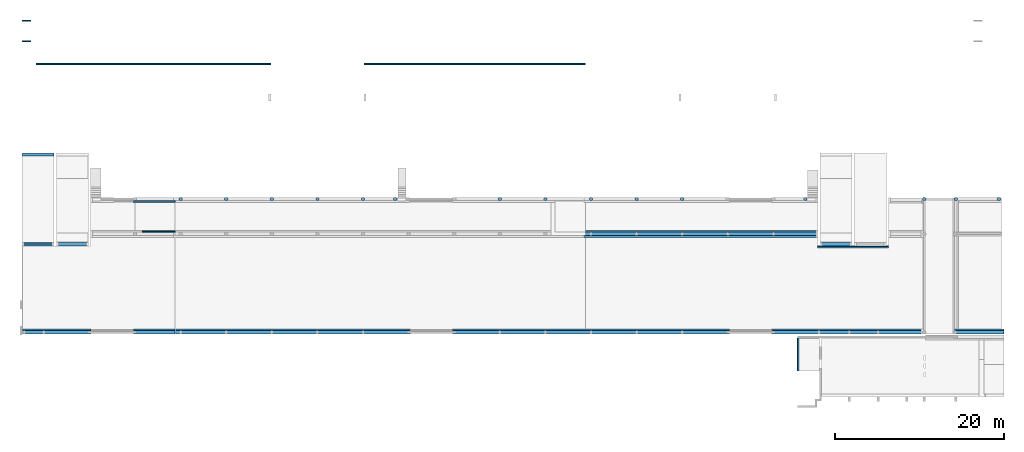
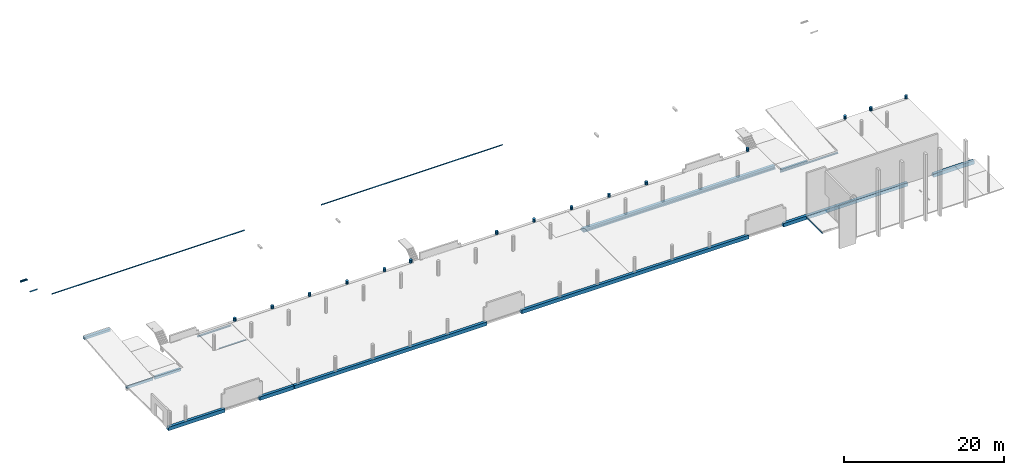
# One storey, part 3 of 9: 19 beams, 15 columns.
"""IFC2X3 building model written with IfcOpenShell, lengths in millimetres."""

from ifc_helpers import new_model, entity, si_unit, converted_unit, derived_unit, direction, frame, frame_2d, origin, place, context, subcontext, project, spatial, polyline, circle_curve, parameter, trimmed, segment, composite_curve, rectangle, circle, outline, extrude, source, transform, mapped, material, type_object, type_shapes, element, save


model = new_model("IFC2X3")

# Units and contexts
model_context = context("Model", 3, precision=0.01, world=origin(), true_north=direction((6.12303176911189e-17, 1.0)))
body_context = subcontext(model_context, "Body", "Model", "MODEL_VIEW")
ifc_project = project(units=[si_unit("LENGTHUNIT", "METRE", prefix="MILLI"), si_unit("AREAUNIT", "SQUARE_METRE"), si_unit("VOLUMEUNIT", "CUBIC_METRE"), converted_unit("PLANEANGLEUNIT", "DEGREE", entity("IfcRatioMeasure", 0.0174532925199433), si_unit("PLANEANGLEUNIT", "RADIAN"), dimensions=[0, 0, 0, 0, 0, 0, 0]), si_unit("MASSUNIT", "GRAM", prefix="KILO"), derived_unit("MASSDENSITYUNIT", [(si_unit("MASSUNIT", "GRAM", prefix="KILO"), 1), (si_unit("LENGTHUNIT", "METRE"), -3)]), si_unit("TIMEUNIT", "SECOND"), si_unit("FREQUENCYUNIT", "HERTZ"), si_unit("THERMODYNAMICTEMPERATUREUNIT", "DEGREE_CELSIUS"), derived_unit("THERMALTRANSMITTANCEUNIT", [(si_unit("MASSUNIT", "GRAM", prefix="KILO"), 1), (si_unit("THERMODYNAMICTEMPERATUREUNIT", "KELVIN"), -1), (si_unit("TIMEUNIT", "SECOND"), -3)]), derived_unit("VOLUMETRICFLOWRATEUNIT", [(si_unit("LENGTHUNIT", "METRE"), 3), (si_unit("TIMEUNIT", "SECOND"), -1)]), si_unit("ELECTRICCURRENTUNIT", "AMPERE"), si_unit("ELECTRICVOLTAGEUNIT", "VOLT"), si_unit("POWERUNIT", "WATT"), si_unit("FORCEUNIT", "NEWTON", prefix="KILO"), si_unit("ILLUMINANCEUNIT", "LUX"), si_unit("LUMINOUSFLUXUNIT", "LUMEN"), si_unit("LUMINOUSINTENSITYUNIT", "CANDELA"), derived_unit("USERDEFINED", [(si_unit("MASSUNIT", "GRAM", prefix="KILO"), -1), (si_unit("LENGTHUNIT", "METRE"), -2), (si_unit("TIMEUNIT", "SECOND"), 3), (si_unit("LUMINOUSFLUXUNIT", "LUMEN"), 1)]), derived_unit("LINEARVELOCITYUNIT", [(si_unit("LENGTHUNIT", "METRE"), 1), (si_unit("TIMEUNIT", "SECOND"), -1)]), si_unit("PRESSUREUNIT", "PASCAL"), derived_unit("USERDEFINED", [(si_unit("LENGTHUNIT", "METRE"), -2), (si_unit("MASSUNIT", "GRAM", prefix="KILO"), 1), (si_unit("TIMEUNIT", "SECOND"), -2)])], contexts=[model_context])

# Site, building, storey
site_placement = place(None, origin())
site = spatial("IfcSite", under=ifc_project, at=site_placement, Name="Default", CompositionType="ELEMENT")
building_placement = place(site_placement, origin())
building = spatial("IfcBuilding", under=site, at=building_placement, Name="niet gebruiken", CompositionType="ELEMENT")
storey_placement = place(building_placement, frame((0.0, 0.0, 5570.0)))
storey = spatial("IfcBuildingStorey", under=building, at=storey_placement, Name="01b tweede tussenverdieping", CompositionType="ELEMENT", Elevation=5570.0)

# Columns
ifc_material_1 = material(Name="NLRS_f2_beton prefab")
column_type_1 = type_object("IfcColumnType", Name="ø400", PredefinedType="COLUMN", material=ifc_material_1)
shared_shape_1 = source(origin(), body_context, "Body", "SweptSolid", [
    extrude(circle(Radius=200.0, at=frame_2d((1.69197988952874e-14, -3.02923644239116e-13), x_axis=(1.0, 0.0))), frame((0.0, 0.0, 5600.0)), (0.0, 0.0, 1.0), 459.999999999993),
])
type_shapes(column_type_1, [shared_shape_1])
for number, where in (
    (1, (27000.0, 24976.0, -5570.0)),
    (2, (32400.0, 24976.0, -5570.0)),
    (3, (37800.0, 24976.0, -5570.0)),
    (4, (43200.0, 24976.0, -5570.0)),
    (5, (48600.0, 24976.0, -5570.0)),
    (6, (52390.0, 24976.0, -5570.0)),
    (7, (64800.0, 24976.0, -5570.0)),
    (8, (70200.0, 24976.0, -5570.0)),
    (9, (75600.0, 24976.0, -5570.0)),
    (10, (81000.0, 24976.0, -5570.0)),
    (11, (86400.0, 24976.0, -5570.0)),
    (12, (100990.0, 24976.0, -5570.0)),
    (13, (115075.000813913, 24976.0, -5570.0)),
):
    element("IfcColumn", number, at=place(storey_placement, frame(where)), inside=storey, type_object=column_type_1, material=ifc_material_1, Name="NLRS_28. kolom rond_gen:ø400", ObjectType="ø400", context=body_context, shape_type="MappedRepresentation", body=[
        mapped(shared_shape_1, transform((0.0, 0.0, 0.0), scale=1.0)),
    ])
column_type_2 = type_object("IfcColumnType", Name="ø400", PredefinedType="COLUMN", material=ifc_material_1)
shared_shape_2 = source(origin(), body_context, "Body", "SweptSolid", [
    extrude(circle(Radius=200.0, at=frame_2d((1.69197988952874e-14, -3.02923644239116e-13), x_axis=(1.0, 0.0))), frame((0.0, 0.0, 5520.0)), (0.0, 0.0, 1.0), 539.999999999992),
])
type_shapes(column_type_2, [shared_shape_2])
column_1_placement = place(storey_placement, frame((118800.0, 24976.0, -5570.0)))
element("IfcColumn", 14, at=column_1_placement, inside=storey, type_object=column_type_2, material=ifc_material_1, Name="NLRS_28. kolom rond_gen:ø400", ObjectType="ø400", context=body_context, shape_type="MappedRepresentation", body=[
    mapped(shared_shape_2, transform((0.0, 0.0, 0.0), scale=1.0)),
])
column_type_3 = type_object("IfcColumnType", Name="ø400", PredefinedType="COLUMN", material=ifc_material_1)
shared_shape_3 = source(origin(), body_context, "Body", "SweptSolid", [
    extrude(circle(Radius=200.000000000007, at=frame_2d((-3.75232390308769e-25, -8.66293703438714e-12), x_axis=(1.0, 0.0))), frame((123900.0, 24976.0, 5600.0)), (0.0, 0.0, 1.0), 459.999999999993),
])
type_shapes(column_type_3, [shared_shape_3])
column_2_placement = place(storey_placement, frame((0.0, 0.0, -5570.0)))
element("IfcColumn", 15, at=column_2_placement, inside=storey, type_object=column_type_3, material=ifc_material_1, Name="NLRS_28. kolom rond_gen:ø400", ObjectType="ø400", context=body_context, shape_type="MappedRepresentation", body=[
    mapped(shared_shape_3, transform((0.0, 0.0, 0.0), scale=1.0)),
])

# Beams
ifc_material_2 = material(Name="NLRS_h2_staal")
beam_type_1 = type_object("IfcBeamType", Name="NLRS_28.11_SF_WPB_stalen ligger hoekprofiel gelijkzijdig_gen:ligger gelijzijdig hoekprofiel LEQU_150x150x15", PredefinedType="BEAM")
beam_1_placement = place(storey_placement, frame((8245.0, 46133.5000000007, -330.0)))
element("IfcBeam", 16, at=beam_1_placement, inside=storey, type_object=beam_type_1, material=ifc_material_2, Name="NLRS_28.11_SF_WPB_stalen ligger hoekprofiel gelijkzijdig_gen:ligger gelijzijdig hoekprofiel LEQU_150x150x15", ObjectType="NLRS_28.11_SF_WPB_stalen ligger hoekprofiel gelijkzijdig_gen:ligger gelijzijdig hoekprofiel LEQU_150x150x15", context=body_context, shape_type="SweptSolid", body=[
    extrude(outline(composite_curve([segment(polyline([(49.6666666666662, -93.3333333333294), (56.6666666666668, -93.3333333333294)]), True, "CONTINUOUS"), segment(polyline([(56.6666666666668, -93.3333333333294), (56.6666666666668, 56.6666666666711)]), True, "CONTINUOUS"), segment(polyline([(56.6666666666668, 56.6666666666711), (-93.3333333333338, 56.6666666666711)]), True, "CONTINUOUS"), segment(polyline([(-93.3333333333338, 56.6666666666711), (-93.3333333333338, 49.6666666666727)]), True, "CONTINUOUS"), segment(trimmed(circle_curve(frame_2d((-85.3333333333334, 49.6666666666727), x_axis=(-1.0, 0.0)), 7.99999999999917), [parameter(0.0)], [parameter(90.0000000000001)], True, "PARAMETER"), True, "CONTINUOUS"), segment(polyline([(-85.3333333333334, 41.6666666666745), (25.6666666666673, 41.6666666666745)]), True, "CONTINUOUS"), segment(trimmed(circle_curve(frame_2d((25.6666666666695, 25.6666666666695), x_axis=(0.0, 1.0)), 15.9999999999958), [parameter(269.999999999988)], [parameter(0.0)], True, "PARAMETER"), False, "CONTINUOUS"), segment(polyline([(41.6666666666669, 25.6666666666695), (41.6666666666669, -85.3333333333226)]), True, "CONTINUOUS"), segment(trimmed(circle_curve(frame_2d((49.6666666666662, -85.3333333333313), x_axis=(-1.0, 0.0)), 7.99999999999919), [parameter(0.0)], [parameter(90.0000000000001)], True, "PARAMETER"), True, "CONTINUOUS")], self_intersect=False)), frame((0.0, -14.1666666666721, 56.6666666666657), z_axis=(1.0, 0.0, 0.0), x_axis=(0.0, 0.0, -1.0)), (0.0, 0.0, 1.0), 999.999999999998),
])
beam_2_placement = place(storey_placement, frame((8245.0, 43618.5000000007, -330.0)))
element("IfcBeam", 17, at=beam_2_placement, inside=storey, type_object=beam_type_1, material=ifc_material_2, Name="NLRS_28.11_SF_WPB_stalen ligger hoekprofiel gelijkzijdig_gen:ligger gelijzijdig hoekprofiel LEQU_150x150x15", ObjectType="NLRS_28.11_SF_WPB_stalen ligger hoekprofiel gelijkzijdig_gen:ligger gelijzijdig hoekprofiel LEQU_150x150x15", context=body_context, shape_type="SweptSolid", body=[
    extrude(outline(composite_curve([segment(polyline([(-93.3333333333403, -56.6666666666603), (56.6666666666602, -56.6666666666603)]), True, "CONTINUOUS"), segment(polyline([(56.6666666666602, -56.6666666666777), (56.6666666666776, 93.3333333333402)]), True, "CONTINUOUS"), segment(polyline([(56.6666666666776, 93.3333333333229), (49.666666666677, 93.333333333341)]), True, "CONTINUOUS"), segment(trimmed(circle_curve(frame_2d((49.6666666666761, 85.3333333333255), x_axis=(0.0, 1.0)), 7.99999999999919), [parameter(0.0)], [parameter(90.0000000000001)], True, "PARAMETER"), True, "CONTINUOUS"), segment(polyline([(41.6666666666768, 85.3333333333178), (41.666666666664, -25.6666666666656)]), True, "CONTINUOUS"), segment(trimmed(circle_curve(frame_2d((25.6666666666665, -25.6666666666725), x_axis=(1.0, 0.0)), 15.9999999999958), [parameter(269.999999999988)], [parameter(0.0)], True, "PARAMETER"), False, "CONTINUOUS"), segment(polyline([(25.6666666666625, -41.6666666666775), (-85.3333333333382, -41.6666666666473)]), True, "CONTINUOUS"), segment(trimmed(circle_curve(frame_2d((-85.3333333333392, -49.6666666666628), x_axis=(0.0, 1.0)), 7.99999999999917), [parameter(0.0)], [parameter(90.0000000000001)], True, "PARAMETER"), True, "CONTINUOUS"), segment(polyline([(-93.3333333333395, -49.6666666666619), (-93.3333333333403, -56.6666666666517)]), True, "CONTINUOUS")], self_intersect=False)), frame((0.0, 14.1666666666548, 56.6666666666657), z_axis=(1.0, 0.0, 0.0), x_axis=(0.0, 0.0, -1.0)), (0.0, 0.0, 1.0), 999.999999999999),
])
beam_type_2 = type_object("IfcBeamType", Name="NLRS_28.11_SF_WPB_prefabbeton balk enkele sponning_gen:600x540/200x200", PredefinedType="BEAM")
beam_3_placement = place(storey_placement, frame((8245.00040695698, 9296.0, 10.0)))
element("IfcBeam", 18, at=beam_3_placement, inside=storey, type_object=beam_type_2, material=ifc_material_1, Name="NLRS_28.11_SF_WPB_prefabbeton balk enkele sponning_gen:600x540/200x200", ObjectType="NLRS_28.11_SF_WPB_prefabbeton balk enkele sponning_gen:600x540/200x200", context=body_context, shape_type="SweptSolid", body=[
    extrude(outline(polyline([(-293.33333333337, -333.333333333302), (246.666666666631, -333.333333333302), (246.666666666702, 266.666666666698), (46.6666666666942, 266.666666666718), (46.6666666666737, 66.6666666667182), (-293.333333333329, 66.666666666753), (-293.33333333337, -333.333333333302)])), frame((0.0, 33.3333333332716, -293.333333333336), z_axis=(1.0, 0.0, 0.0), x_axis=(0.0, 0.0, -1.0)), (0.0, 0.0, 1.0), 8154.99959304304),
])
beam_4_placement = place(storey_placement, frame((97000.0, 9296.0, 10.0)))
element("IfcBeam", 19, at=beam_4_placement, inside=storey, type_object=beam_type_2, material=ifc_material_1, Name="NLRS_28.11_SF_WPB_prefabbeton balk enkele sponning_gen:600x540/200x200", ObjectType="NLRS_28.11_SF_WPB_prefabbeton balk enkele sponning_gen:600x540/200x200", context=body_context, shape_type="SweptSolid", body=[
    extrude(outline(polyline([(-293.333333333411, -333.333333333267), (246.666666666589, -333.333333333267), (246.666666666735, 266.666666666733), (46.6666666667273, 266.666666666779), (46.666666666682, 66.6666666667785), (-293.333333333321, 66.6666666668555), (-293.333333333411, -333.333333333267)])), frame((0.0, 33.3333333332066, -293.333333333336), z_axis=(1.0, 0.0, 0.0), x_axis=(0.0, 0.0, -1.0)), (0.0, 0.0, 1.0), 17930.0004069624),
])
beam_type_3 = type_object("IfcBeamType", Name="NLRS_28.11_SF_WPB_prefabbeton balk dubbele sponning_gen:800x460/200x260/200x260", PredefinedType="BEAM")
beam_5_placement = place(storey_placement, frame((74750.0, 20846.0, -70.0)))
element("IfcBeam", 20, at=beam_5_placement, inside=storey, type_object=beam_type_3, material=ifc_material_1, Name="NLRS_28.11_SF_WPB_prefabbeton balk dubbele sponning_gen:800x460/200x260/200x260", ObjectType="NLRS_28.11_SF_WPB_prefabbeton balk dubbele sponning_gen:800x460/200x260/200x260", context=body_context, shape_type="SweptSolid", body=[
    extrude(outline(polyline([(15.0, -400.0), (215.0, -400.0), (215.0, 400.0), (15.0, 400.0), (15.0, 200.0), (-245.0, 200.0), (-245.0, -200.0), (15.0, -200.0), (15.0, -400.0)])), frame((0.0, 0.0, -245.0), z_axis=(1.0, 0.0, 0.0), x_axis=(0.0, 0.0, -1.0)), (0.0, 0.0, 1.0), 27705.0000000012),
])
beam_type_4 = type_object("IfcBeamType", Name="NLRS_28.11_SF_WPB_stalen ligger hoekprofiel gelijkzijdig_gen:ligger gelijzijdig hoekprofiel LEQU_200x200x15", PredefinedType="BEAM")
beam_6_placement = place(storey_placement, frame((102475.0, 19226.0, -252.500000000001)))
element("IfcBeam", 21, at=beam_6_placement, inside=storey, type_object=beam_type_4, material=ifc_material_2, Name="NLRS_28.11_SF_WPB_stalen ligger hoekprofiel gelijkzijdig_gen:ligger gelijzijdig hoekprofiel LEQU_200x200x15", ObjectType="NLRS_28.11_SF_WPB_stalen ligger hoekprofiel gelijkzijdig_gen:ligger gelijzijdig hoekprofiel LEQU_200x200x15", context=body_context, shape_type="SweptSolid", body=[
    extrude(outline(composite_curve([segment(polyline([(66.3333333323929, -126.666666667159), (73.3333333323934, -126.666666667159)]), True, "CONTINUOUS"), segment(polyline([(73.3333333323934, -126.666666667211), (73.3333333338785, 73.3333333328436)]), True, "CONTINUOUS"), segment(polyline([(73.3333333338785, 73.3333333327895), (-126.666666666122, 73.3333333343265)]), True, "CONTINUOUS"), segment(polyline([(-126.666666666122, 73.3333333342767), (-126.666666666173, 66.3333333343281)]), True, "CONTINUOUS"), segment(trimmed(circle_curve(frame_2d((-118.666666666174, 66.3333333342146), x_axis=(-1.0, 0.0)), 8.00000000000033), [parameter(0.0)], [parameter(90.0000000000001)], True, "PARAMETER"), True, "CONTINUOUS"), segment(polyline([(-118.666666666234, 58.3333333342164), (42.3333333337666, 58.3333333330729)]), True, "CONTINUOUS"), segment(trimmed(circle_curve(frame_2d((42.3333333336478, 42.3333333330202), x_axis=(0.0, 1.0)), 15.9999999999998), [parameter(270.0)], [parameter(0.0)], True, "PARAMETER"), False, "CONTINUOUS"), segment(polyline([(58.3333333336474, 42.3333333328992), (58.3333333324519, -118.666666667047)]), True, "CONTINUOUS"), segment(trimmed(circle_curve(frame_2d((66.3333333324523, -118.666666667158), x_axis=(-1.0, 0.0)), 8.00000000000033), [parameter(0.0)], [parameter(90.0000000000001)], True, "PARAMETER"), True, "CONTINUOUS")], self_intersect=False)), frame((0.0, 126.666666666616, -19.1666666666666), z_axis=(1.0, 0.0, 0.0), x_axis=(0.0, 0.0, -1.0)), (0.0, 0.0, 1.0), 8350.00000000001),
])
beam_7_placement = place(storey_placement, frame((22470.0, 21246.0, -252.500000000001)))
element("IfcBeam", 22, at=beam_7_placement, inside=storey, type_object=beam_type_4, material=ifc_material_2, Name="NLRS_28.11_SF_WPB_stalen ligger hoekprofiel gelijkzijdig_gen:ligger gelijzijdig hoekprofiel LEQU_200x200x15", ObjectType="NLRS_28.11_SF_WPB_stalen ligger hoekprofiel gelijkzijdig_gen:ligger gelijzijdig hoekprofiel LEQU_200x200x15", context=body_context, shape_type="SweptSolid", body=[
    extrude(outline(composite_curve([segment(polyline([(-126.666666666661, -73.3333333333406), (73.3333333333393, -73.3333333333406)]), True, "CONTINUOUS"), segment(polyline([(73.3333333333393, -73.333333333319), (73.3333333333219, 126.666666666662)]), True, "CONTINUOUS"), segment(polyline([(73.3333333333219, 126.666666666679), (66.3333333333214, 126.666666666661)]), True, "CONTINUOUS"), segment(trimmed(circle_curve(frame_2d((66.3333333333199, 118.666666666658), x_axis=(0.0, 1.0)), 7.99999999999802), [parameter(0.0)], [parameter(90.0000000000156)], True, "PARAMETER"), True, "CONTINUOUS"), segment(polyline([(58.3333333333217, 118.666666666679), (58.3333333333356, -42.3333333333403)]), True, "CONTINUOUS"), segment(trimmed(circle_curve(frame_2d((42.333333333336, -42.3333333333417), x_axis=(1.0, 0.0)), 16.0000000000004), [parameter(270.0)], [parameter(0.0)], True, "PARAMETER"), False, "CONTINUOUS"), segment(polyline([(42.3333333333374, -58.3333333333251), (-118.666666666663, -58.3333333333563)]), True, "CONTINUOUS"), segment(trimmed(circle_curve(frame_2d((-118.666666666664, -66.3333333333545), x_axis=(0.0, 1.0)), 7.99999999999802), [parameter(0.0)], [parameter(90.0000000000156)], True, "PARAMETER"), True, "CONTINUOUS"), segment(polyline([(-126.666666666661, -66.3333333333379), (-126.666666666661, -73.3333333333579)]), True, "CONTINUOUS")], self_intersect=False)), frame((10.0, -126.666666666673, -19.1666666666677), z_axis=(1.0, 0.0, 0.0), x_axis=(0.0, 0.0, -1.0)), (0.0, 0.0, 1.0), 3870.00000000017),
])
beam_8_placement = place(storey_placement, frame((21400.0, 24576.0, -252.499999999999)))
element("IfcBeam", 23, at=beam_8_placement, inside=storey, type_object=beam_type_4, material=ifc_material_2, Name="NLRS_28.11_SF_WPB_stalen ligger hoekprofiel gelijkzijdig_gen:ligger gelijzijdig hoekprofiel LEQU_200x200x15", ObjectType="NLRS_28.11_SF_WPB_stalen ligger hoekprofiel gelijkzijdig_gen:ligger gelijzijdig hoekprofiel LEQU_200x200x15", context=body_context, shape_type="SweptSolid", body=[
    extrude(outline(composite_curve([segment(polyline([(66.3333333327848, -126.66666666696), (73.3333333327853, -126.66666666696)]), True, "CONTINUOUS"), segment(polyline([(73.3333333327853, -126.66666666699), (73.3333333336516, 73.3333333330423)]), True, "CONTINUOUS"), segment(polyline([(73.3333333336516, 73.333333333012), (-126.666666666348, 73.3333333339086)]), True, "CONTINUOUS"), segment(polyline([(-126.666666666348, 73.333333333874), (-126.666666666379, 66.3333333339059)]), True, "CONTINUOUS"), segment(trimmed(circle_curve(frame_2d((-118.666666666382, 66.3333333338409), x_axis=(-1.0, 0.0)), 7.99999999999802), [parameter(0.0)], [parameter(90.0000000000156)], True, "PARAMETER"), True, "CONTINUOUS"), segment(polyline([(-118.666666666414, 58.3333333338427), (42.3333333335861, 58.3333333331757)]), True, "CONTINUOUS"), segment(trimmed(circle_curve(frame_2d((42.3333333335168, 42.3333333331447), x_axis=(0.0, 1.0)), 16.0000000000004), [parameter(270.0)], [parameter(0.0)], True, "PARAMETER"), False, "CONTINUOUS"), segment(polyline([(58.3333333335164, 42.3333333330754), (58.3333333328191, -118.666666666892)]), True, "CONTINUOUS"), segment(trimmed(circle_curve(frame_2d((66.3333333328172, -118.666666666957), x_axis=(-1.0, 0.0)), 7.99999999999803), [parameter(0.0)], [parameter(90.0000000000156)], True, "PARAMETER"), True, "CONTINUOUS")], self_intersect=False)), frame((0.0, 126.666666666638, -19.1666666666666), z_axis=(1.0, 0.0, 0.0), x_axis=(0.0, 0.0, -1.0)), (0.0, 0.0, 1.0), 4950.00000000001),
])
beam_9_placement = place(storey_placement, frame((100117.5, 8496.0, 50.0), z_axis=(0.0, 0.0, 1.0), x_axis=(0.0, -1.0, 0.0)))
element("IfcBeam", 24, at=beam_9_placement, inside=storey, type_object=beam_type_4, material=ifc_material_2, Name="NLRS_28.11_SF_WPB_stalen ligger hoekprofiel gelijkzijdig_gen:ligger gelijzijdig hoekprofiel LEQU_200x200x15", ObjectType="NLRS_28.11_SF_WPB_stalen ligger hoekprofiel gelijkzijdig_gen:ligger gelijzijdig hoekprofiel LEQU_200x200x15", context=body_context, shape_type="SweptSolid", body=[
    extrude(outline(composite_curve([segment(polyline([(-126.666666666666, -73.333333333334), (73.3333333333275, -73.333333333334)]), True, "CONTINUOUS"), segment(polyline([(73.333333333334, -73.3333333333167), (73.3333333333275, 126.666666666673)]), True, "CONTINUOUS"), segment(polyline([(73.333333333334, 126.666666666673), (66.3333333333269, 126.666666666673)]), True, "CONTINUOUS"), segment(trimmed(circle_curve(frame_2d((66.3333333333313, 118.666666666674), x_axis=(0.0, 1.0)), 7.9999999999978), [parameter(0.0)], [parameter(90.0000000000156)], True, "PARAMETER"), True, "CONTINUOUS"), segment(polyline([(58.3333333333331, 118.666666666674), (58.3333333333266, -42.333333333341)]), True, "CONTINUOUS"), segment(trimmed(circle_curve(frame_2d((42.3333333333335, -42.3333333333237), x_axis=(1.0, 0.0)), 15.9999999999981), [parameter(270.0)], [parameter(0.0)], True, "PARAMETER"), False, "CONTINUOUS"), segment(polyline([(42.3333333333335, -58.3333333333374), (-118.666666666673, -58.3333333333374)]), True, "CONTINUOUS"), segment(trimmed(circle_curve(frame_2d((-118.666666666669, -66.3333333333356), x_axis=(0.0, 1.0)), 7.9999999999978), [parameter(0.0)], [parameter(90.0000000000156)], True, "PARAMETER"), True, "CONTINUOUS"), segment(polyline([(-126.666666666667, -66.3333333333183), (-126.666666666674, -73.333333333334)]), True, "CONTINUOUS")], self_intersect=False)), frame((0.0, -19.1666666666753, 73.3333333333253), z_axis=(1.0, 0.0, 0.0), x_axis=(0.0, 0.0, -1.0)), (0.0, 0.0, 1.0), 3881.00000000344),
])
beam_type_5 = type_object("IfcBeamType", Name="NLRS_28.11_SF_WPB_prefabbeton balk enkele sponning_gen:600x540/200x340", PredefinedType="BEAM")
beam_10_placement = place(storey_placement, frame((118650.0, 9296.0, 10.0)))
element("IfcBeam", 25, at=beam_10_placement, inside=storey, type_object=beam_type_5, material=ifc_material_1, Name="NLRS_28.11_SF_WPB_prefabbeton balk enkele sponning_gen:600x540/200x340", ObjectType="NLRS_28.11_SF_WPB_prefabbeton balk enkele sponning_gen:600x540/200x340", context=body_context, shape_type="SweptSolid", body=[
    extrude(outline(polyline([(-293.333333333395, -333.333333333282), (246.666666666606, -333.333333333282), (246.666666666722, 266.666666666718), (46.6666666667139, 266.666666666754), (46.6666666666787, 66.6666666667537), (-293.333333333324, 66.6666666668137), (-293.333333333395, -333.333333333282)])), frame((0.0, 33.3333333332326, -293.333333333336), z_axis=(1.0, 0.0, 0.0), x_axis=(0.0, 0.0, -1.0)), (0.0, 0.0, 1.0), 5860.00000000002),
])
beam_type_6 = type_object("IfcBeamType", Name="600x540/200x200", PredefinedType="BEAM", material=ifc_material_1)
shared_shape_4 = source(origin(), body_context, "Body", "SweptSolid", [
    extrude(outline(polyline([(-308.750000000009, -250.0), (-108.750000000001, -250.0), (-108.75, -50.0), (151.250000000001, -50.0), (221.250000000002, -50.0), (231.250000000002, -50.0), (231.250000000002, 350.0), (-308.749999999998, 350.0), (-308.750000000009, -250.0)])), frame((21400.0, 9346.0, 5348.75), z_axis=(1.0, 0.0, 0.0), x_axis=(0.0, 0.0, 1.0)), (0.0, 0.0, 1.0), 4949.99999999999),
    extrude(outline(polyline([(-231.25, -350.0), (308.749999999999, -350.0), (308.75, 250.0), (108.750000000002, 250.0), (108.750000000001, 50.0), (-151.25, 50.0), (-221.250000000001, 50.0), (-231.25, 50.0), (-231.25, -350.0)])), frame((26370.0, 9346.0, 5348.75), z_axis=(1.0, 0.0, 0.0), x_axis=(0.0, 0.0, -1.0)), (0.0, 0.0, 1.0), 27829.9999999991),
])
type_shapes(beam_type_6, [shared_shape_4])
beam_11_placement = place(storey_placement, frame((0.0, 0.0, -5570.0)))
element("IfcBeam", 26, at=beam_11_placement, inside=storey, type_object=beam_type_6, material=ifc_material_1, Name="NLRS_28.11_SF_WPB_prefabbeton balk enkele sponning_gen:600x540/200x200", ObjectType="600x540/200x200", context=body_context, shape_type="MappedRepresentation", body=[
    mapped(shared_shape_4, transform((0.0, 0.0, 0.0), scale=1.0)),
])
beam_type_7 = type_object("IfcBeamType", Name="600x540/200x200", PredefinedType="BEAM", material=ifc_material_1)
shared_shape_5 = source(origin(), body_context, "Body", "SweptSolid", [
    extrude(outline(polyline([(-308.750000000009, -250.0), (-108.750000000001, -250.0), (-108.75, -50.0), (151.250000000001, -50.0), (221.250000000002, -50.0), (231.250000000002, -50.0), (231.250000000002, 350.0), (-308.749999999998, 350.0), (-308.750000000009, -250.0)])), frame((59200.0, 9346.0, 5348.75), z_axis=(1.0, 0.0, 0.0), x_axis=(0.0, 0.0, 1.0)), (0.0, 0.0, 1.0), 15749.999999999),
    extrude(outline(polyline([(-231.25, -350.0), (308.749999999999, -350.0), (308.75, 250.0), (108.750000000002, 250.0), (108.750000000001, 50.0), (-151.25, 50.0), (-221.250000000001, 50.0), (-231.25, 50.0), (-231.25, -350.0)])), frame((74970.0, 9346.0, 5348.75), z_axis=(1.0, 0.0, 0.0), x_axis=(0.0, 0.0, -1.0)), (0.0, 0.0, 1.0), 17030.0000000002),
])
type_shapes(beam_type_7, [shared_shape_5])
beam_12_placement = place(storey_placement, frame((0.0, 0.0, -5570.0)))
element("IfcBeam", 27, at=beam_12_placement, inside=storey, type_object=beam_type_7, material=ifc_material_1, Name="NLRS_28.11_SF_WPB_prefabbeton balk enkele sponning_gen:600x540/200x200", ObjectType="600x540/200x200", context=body_context, shape_type="MappedRepresentation", body=[
    mapped(shared_shape_5, transform((0.0, 0.0, 0.0), scale=1.0)),
])
beam_type_8 = type_object("IfcBeamType", Name="NLRS_28.11_SF_WPB_prefabbeton balk recht_gen:380x350", PredefinedType="BEAM")
beam_13_placement = place(storey_placement, frame((8245.0, 30236.0, 940.0)))
element("IfcBeam", 28, at=beam_13_placement, inside=storey, type_object=beam_type_8, material=ifc_material_1, Name="NLRS_28.11_SF_WPB_prefabbeton balk recht_gen:380x350", ObjectType="NLRS_28.11_SF_WPB_prefabbeton balk recht_gen:380x350", context=body_context, shape_type="SweptSolid", body=[
    extrude(rectangle(XDim=349.999999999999, YDim=380.0, at=frame_2d((-5.40012479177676e-13, 8.66862137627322e-12), x_axis=(1.0, 0.0))), frame((0.0, 0.0, -175.0), z_axis=(1.0, 0.0, 0.0), x_axis=(0.0, 0.0, -1.0)), (0.0, 0.0, 1.0), 3760.00000000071),
])
beam_14_placement = place(storey_placement, frame((12295.0, 19616.0, -100.0)))
element("IfcBeam", 29, at=beam_14_placement, inside=storey, type_object=beam_type_8, material=ifc_material_1, Name="NLRS_28.11_SF_WPB_prefabbeton balk recht_gen:380x350", ObjectType="NLRS_28.11_SF_WPB_prefabbeton balk recht_gen:380x350", context=body_context, shape_type="SweptSolid", body=[
    extrude(rectangle(XDim=349.999999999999, YDim=380.000000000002, at=frame_2d((-5.40012479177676e-13, 2.92459390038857e-11), x_axis=(1.0, 0.0))), frame((0.0, 0.0, -175.0), z_axis=(1.0, 0.0, 0.0), x_axis=(0.0, 0.0, -1.0)), (0.0, 0.0, 1.0), 3759.99999999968),
])
beam_15_placement = place(storey_placement, frame((106505.0, 19616.0, -100.0), z_axis=(0.0, 0.0, 1.0), x_axis=(-1.0, 0.0, 0.0)))
element("IfcBeam", 30, at=beam_15_placement, inside=storey, type_object=beam_type_8, material=ifc_material_1, Name="NLRS_28.11_SF_WPB_prefabbeton balk recht_gen:380x350", ObjectType="NLRS_28.11_SF_WPB_prefabbeton balk recht_gen:380x350", context=body_context, shape_type="SweptSolid", body=[
    extrude(rectangle(XDim=349.999999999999, YDim=379.999999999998, at=frame_2d((-5.40012479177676e-13, -2.38173925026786e-11), x_axis=(1.0, 0.0))), frame((0.0, 0.0, -175.0), z_axis=(1.0, 0.0, 0.0), x_axis=(0.0, 0.0, -1.0)), (0.0, 0.0, 1.0), 3760.00000000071),
])
beam_type_9 = type_object("IfcBeamType", Name="NLRS_28.11_SF_WPB_prefabbeton balk enkele sponning_gen:380x370/180x150", PredefinedType="BEAM")
beam_16_placement = place(storey_placement, frame((8245.0, 19616.0, -80.0)))
element("IfcBeam", 31, at=beam_16_placement, inside=storey, type_object=beam_type_9, material=ifc_material_1, Name="NLRS_28.11_SF_WPB_prefabbeton balk enkele sponning_gen:380x370/180x150", ObjectType="NLRS_28.11_SF_WPB_prefabbeton balk enkele sponning_gen:380x370/180x150", context=body_context, shape_type="SweptSolid", body=[
    extrude(outline(polyline([(-173.333333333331, -193.333333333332), (196.66666666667, -193.333333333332), (196.666666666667, 186.666666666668), (-23.3333333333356, 186.666666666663), (-23.3333333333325, 6.66666666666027), (-173.333333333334, 6.66666666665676), (-173.333333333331, -193.333333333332)])), frame((0.0, 3.33333333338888, -173.333333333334), z_axis=(1.0, 0.0, 0.0), x_axis=(0.0, 0.0, -1.0)), (0.0, 0.0, 1.0), 3760.0000000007),
])
beam_type_10 = type_object("IfcBeamType", Name="NLRS_28.11_SF_WPB_stalen ligger hoekprofiel gelijkzijdig_gen:ligger gelijzijdig hoekprofiel LEQU_200x200x16", PredefinedType="BEAM")
beam_17_placement = place(storey_placement, frame((48745.0, 41061.0, 440.0)))
element("IfcBeam", 32, at=beam_17_placement, inside=storey, type_object=beam_type_10, material=ifc_material_2, Name="NLRS_28.11_SF_WPB_stalen ligger hoekprofiel gelijkzijdig_gen:ligger gelijzijdig hoekprofiel LEQU_200x200x16", ObjectType="NLRS_28.11_SF_WPB_stalen ligger hoekprofiel gelijkzijdig_gen:ligger gelijzijdig hoekprofiel LEQU_200x200x16", context=body_context, shape_type="SweptSolid", body=[
    extrude(outline(composite_curve([segment(polyline([(-73.7777777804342, -126.222222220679), (-66.7777777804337, -126.222222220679)]), True, "CONTINUOUS"), segment(trimmed(circle_curve(frame_2d((-66.7777777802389, -117.222222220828), x_axis=(0.0, -1.0)), 8.99999999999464), [parameter(0.0)], [parameter(90.0000000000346)], True, "PARAMETER"), True, "CONTINUOUS"), segment(polyline([(-57.7777777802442, -117.222222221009), (-57.7777777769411, 39.7777777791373)]), True, "CONTINUOUS"), segment(trimmed(circle_curve(frame_2d((-39.7777777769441, 39.7777777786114), x_axis=(-1.0, 0.0)), 17.9999999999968), [parameter(269.99999999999)], [parameter(0.0)], True, "PARAMETER"), False, "CONTINUOUS"), segment(polyline([(-39.7777777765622, 57.7777777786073), (117.222222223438, 57.7777777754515)]), True, "CONTINUOUS"), segment(trimmed(circle_curve(frame_2d((117.222222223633, 66.7777777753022), x_axis=(0.0, -1.0)), 8.99999999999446), [parameter(0.0)], [parameter(90.0000000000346)], True, "PARAMETER"), True, "CONTINUOUS"), segment(polyline([(126.222222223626, 66.7777777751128), (126.222222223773, 73.7777777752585)]), True, "CONTINUOUS"), segment(polyline([(126.222222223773, 73.7777777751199), (-73.7777777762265, 73.7777777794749)]), True, "CONTINUOUS"), segment(polyline([(-73.7777777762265, 73.7777777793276), (-73.7777777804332, -126.222222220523)]), True, "CONTINUOUS")], self_intersect=False)), frame((0.0, -73.7777777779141, -73.7777777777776), z_axis=(1.0, 0.0, 0.0), x_axis=(0.0, 0.0, -1.0)), (0.0, 0.0, 1.0), 26154.9999999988),
])
beam_18_placement = place(storey_placement, frame((9870.0, 41061.0, 440.0)))
element("IfcBeam", 33, at=beam_18_placement, inside=storey, type_object=beam_type_10, material=ifc_material_2, Name="NLRS_28.11_SF_WPB_stalen ligger hoekprofiel gelijkzijdig_gen:ligger gelijzijdig hoekprofiel LEQU_200x200x16", ObjectType="NLRS_28.11_SF_WPB_stalen ligger hoekprofiel gelijkzijdig_gen:ligger gelijzijdig hoekprofiel LEQU_200x200x16", context=body_context, shape_type="SweptSolid", body=[
    extrude(outline(composite_curve([segment(polyline([(-73.777777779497, -126.222222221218), (-66.7777777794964, -126.222222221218)]), True, "CONTINUOUS"), segment(trimmed(circle_curve(frame_2d((-66.7777777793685, -117.222222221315), x_axis=(0.0, -1.0)), 8.99999999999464), [parameter(0.0)], [parameter(90.0000000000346)], True, "PARAMETER"), True, "CONTINUOUS"), segment(polyline([(-57.7777777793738, -117.222222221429), (-57.7777777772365, 39.777777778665)]), True, "CONTINUOUS"), segment(trimmed(circle_curve(frame_2d((-39.7777777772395, 39.7777777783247), x_axis=(-1.0, 0.0)), 17.9999999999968), [parameter(269.99999999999)], [parameter(0.0)], True, "PARAMETER"), False, "CONTINUOUS"), segment(polyline([(-39.7777777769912, 57.7777777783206), (117.222222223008, 57.7777777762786)]), True, "CONTINUOUS"), segment(trimmed(circle_curve(frame_2d((117.222222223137, 66.7777777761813), x_axis=(0.0, -1.0)), 8.99999999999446), [parameter(0.0)], [parameter(90.0000000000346)], True, "PARAMETER"), True, "CONTINUOUS"), segment(polyline([(126.22222222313, 66.7777777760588), (126.222222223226, 73.7777777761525)]), True, "CONTINUOUS"), segment(polyline([(126.222222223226, 73.7777777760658), (-73.7777777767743, 73.7777777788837)]), True, "CONTINUOUS"), segment(polyline([(-73.7777777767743, 73.7777777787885), (-73.777777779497, -126.222222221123)]), True, "CONTINUOUS")], self_intersect=False)), frame((0.0, -73.7777777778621, -73.7777777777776), z_axis=(1.0, 0.0, 0.0), x_axis=(0.0, 0.0, -1.0)), (0.0, 0.0, 1.0), 16480.0),
])
beam_19_placement = place(storey_placement, frame((26370.0, 41061.0, 440.0)))
element("IfcBeam", 34, at=beam_19_placement, inside=storey, type_object=beam_type_10, material=ifc_material_2, Name="NLRS_28.11_SF_WPB_stalen ligger hoekprofiel gelijkzijdig_gen:ligger gelijzijdig hoekprofiel LEQU_200x200x16", ObjectType="NLRS_28.11_SF_WPB_stalen ligger hoekprofiel gelijkzijdig_gen:ligger gelijzijdig hoekprofiel LEQU_200x200x16", context=body_context, shape_type="SweptSolid", body=[
    extrude(outline(composite_curve([segment(polyline([(-73.7777777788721, -126.222222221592), (-66.7777777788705, -126.222222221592)]), True, "CONTINUOUS"), segment(trimmed(circle_curve(frame_2d((-66.7777777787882, -117.222222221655), x_axis=(0.0, -1.0)), 8.99999999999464), [parameter(0.0)], [parameter(90.0000000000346)], True, "PARAMETER"), True, "CONTINUOUS"), segment(polyline([(-57.7777777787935, -117.222222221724), (-57.7777777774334, 39.7777777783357)]), True, "CONTINUOUS"), segment(trimmed(circle_curve(frame_2d((-39.7777777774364, 39.7777777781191), x_axis=(-1.0, 0.0)), 17.9999999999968), [parameter(269.99999999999)], [parameter(0.0)], True, "PARAMETER"), False, "CONTINUOUS"), segment(polyline([(-39.7777777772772, 57.777777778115), (117.222222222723, 57.7777777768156)]), True, "CONTINUOUS"), segment(trimmed(circle_curve(frame_2d((117.222222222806, 66.7777777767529), x_axis=(0.0, -1.0)), 8.99999999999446), [parameter(0.0)], [parameter(90.0000000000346)], True, "PARAMETER"), True, "CONTINUOUS"), segment(polyline([(126.2222222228, 66.7777777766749), (126.22222222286, 73.7777777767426)]), True, "CONTINUOUS"), segment(polyline([(126.22222222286, 73.777777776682), (-73.7777777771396, 73.7777777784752)]), True, "CONTINUOUS"), segment(polyline([(-73.7777777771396, 73.7777777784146), (-73.7777777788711, -126.222222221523)]), True, "CONTINUOUS")], self_intersect=False)), frame((0.0, -73.7777777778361, -73.7777777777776), z_axis=(1.0, 0.0, 0.0), x_axis=(0.0, 0.0, -1.0)), (0.0, 0.0, 1.0), 11285.0),
])

save(model, "model.ifc")
